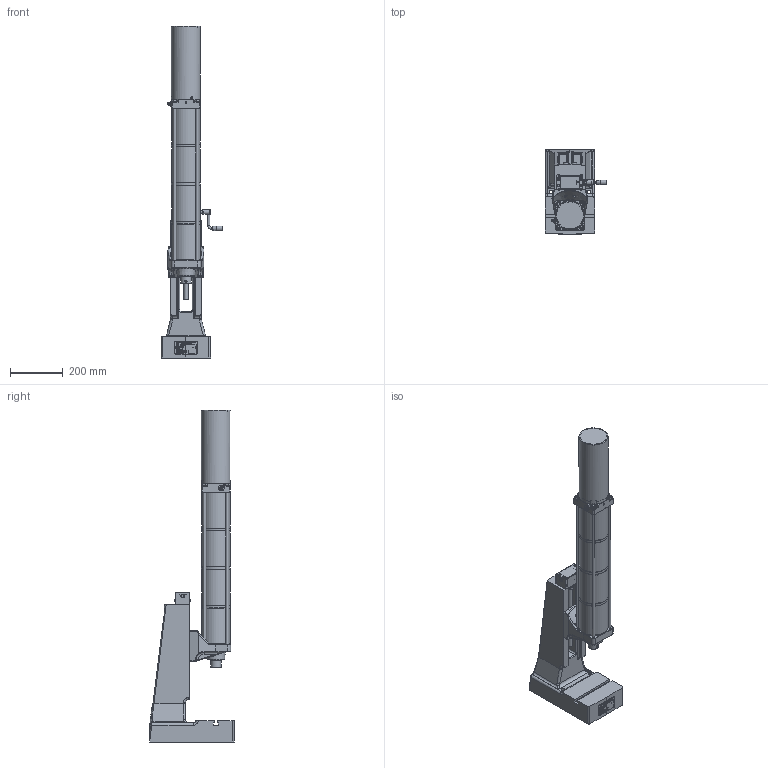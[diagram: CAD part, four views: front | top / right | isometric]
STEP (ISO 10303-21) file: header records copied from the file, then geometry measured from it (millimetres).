
FILE_DESCRIPTION(/* description */ ('Bausatz Ständer T460 N HV-OST'),/* implementation_level */ '2;1');
FILE_NAME(/* name */ 'B:\02_CAD_oeffentlich\CAD_3D_oeffentlich_step\Druckluftpresse\DRP_1700_100_100.stp',/* time_stamp */ '2017-08-25T08:59:17+02:00',/* author */ ('Finsterle'),/* organization */ (''),/* preprocessor_version */ 'ST-DEVELOPER v16.1',/* originating_system */ 'Autodesk Inventor 2016',/* authorisation */ '');
FILE_SCHEMA (('AUTOMOTIVE_DESIGN { 1 0 10303 214 3 1 1 }'));
Products named in the file (5): ENG-000341-1_V; ENG-001110_V; HBF-000760; ENG-000755; HBF-001063_V
Assembly tree (5 placements, depth 2):
  HBF-001063_V
    ENG-000341-1_V
    ENG-001110_V
    HBF-000760
    ENG-000755  x2
Bounding box: 231.79 x 321.2 x 1255.7 mm (x, y, z)
Volume: 10373809.6 mm3; surface area: 1626375.4 mm2
Topology: 6 solids, 29 shells, 7849 faces, 21167 edges, 13802 vertices
Faces by surface type: plane 4664, bspline 2170, cylinder 545, cone 274, torus 120, sphere 76
Full cylindrical faces by diameter (mm): 1 x1, 2 x1, 2.459 x2, 3 x9, 3.242 x7, 3.5 x2, 3.65 x4, 4 x10, 4.134 x1, 4.5 x4, 4.917 x6, 5 x3, 6 x4, 6.2 x4, 6.5 x2, 6.647 x1, 8 x7, 8.4 x1, 8.5 x1, 10 x12, 10.02 x1, 10.106 x2, 10.5 x12, 11.8 x2, 12 x7, 13 x8, 13.5 x4, 14 x3, 14.376 x2, 14.95 x3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
Entity records: 267382 total; most frequent: CARTESIAN_POINT 80081, ORIENTED_EDGE 40892, DIRECTION 28928, EDGE_CURVE 20434, LINE 14076, VECTOR 14076, VERTEX_POINT 13641, EDGE_LOOP 8928
